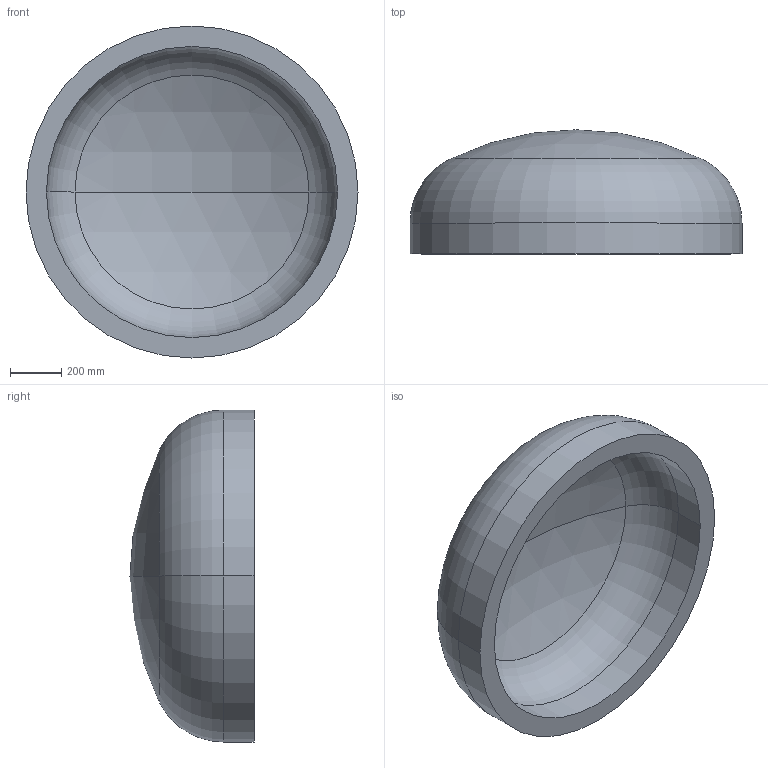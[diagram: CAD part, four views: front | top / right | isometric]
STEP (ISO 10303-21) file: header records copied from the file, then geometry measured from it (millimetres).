
FILE_DESCRIPTION (( 'STEP AP203' ), '1' );
FILE_NAME ('DIN 28013 Korbbogenform_-_Boden DIN 28013 - 1300 x 120 - I - s=80.step', '2016-07-01T09:59:02', ( '' ), ( '' ), 'SwSTEP 2.0', 'SolidWorks 2013', '' );
FILE_SCHEMA (( 'CONFIG_CONTROL_DESIGN' ));
Length unit declared in the file: millimetre
Products named in the file (1): DIN 28013 Korbbogenform_-_Boden DIN 28013 - 1300 x 120 - I - s=80
Bounding box: 1300 x 485.88 x 1300 mm (x, y, z)
Volume: 172749722.6 mm3; surface area: 4638765.7 mm2
Topology: 1 solids, 1 shells, 13 faces, 24 edges, 14 vertices
Faces by surface type: torus 4, cylinder 4, sphere 4, plane 1
Entity records: 407 total; most frequent: DIRECTION 72, CARTESIAN_POINT 52, ORIENTED_EDGE 48, AXIS2_PLACEMENT_3D 34, EDGE_CURVE 24, CIRCLE 20, VERTEX_POINT 14, EDGE_LOOP 14
